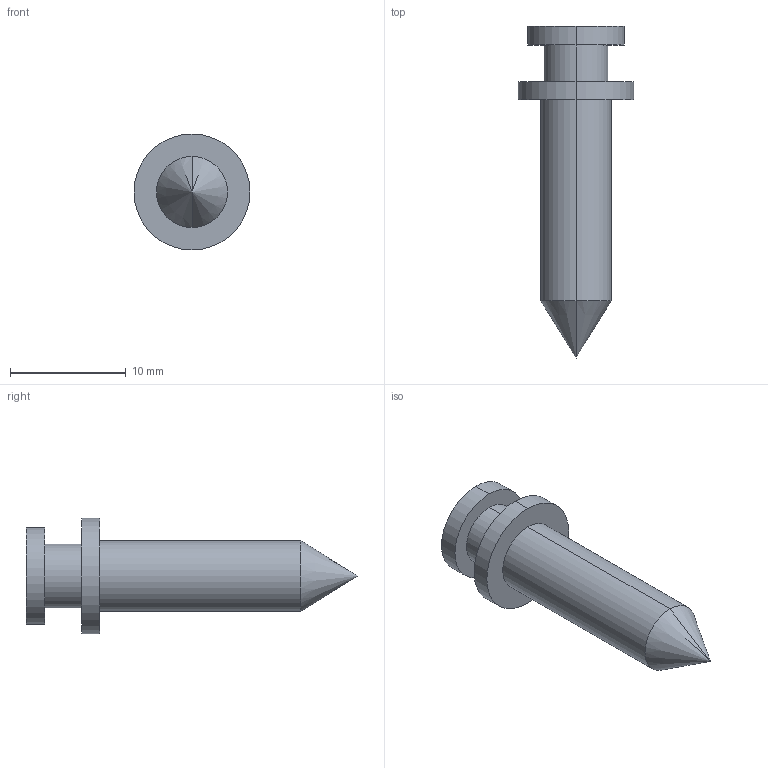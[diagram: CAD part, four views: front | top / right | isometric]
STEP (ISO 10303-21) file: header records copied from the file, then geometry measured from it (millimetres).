
FILE_DESCRIPTION (( 'STEP AP214' ), '1' );
FILE_NAME ('6069_V01_REF_PRT_SH_SCR.STEP', '2026-01-20T15:32:13', ( '' ), ( '' ), 'SwSTEP 2.0', 'SolidWorks 2025', '' );
FILE_SCHEMA (( 'AUTOMOTIVE_DESIGN' ));
Length unit declared in the file: inch
Products named in the file (1): 6069_V01_REF_PRT_SH_SCR
Bounding box: 10.03 x 28.72 x 10.03 mm (x, y, z)
Volume: 855.9 mm3; surface area: 730.6 mm2
Topology: 1 solids, 1 shells, 14 faces, 28 edges, 17 vertices
Faces by surface type: cylinder 8, plane 4, cone 2
Entity records: 385 total; most frequent: DIRECTION 72, CARTESIAN_POINT 58, ORIENTED_EDGE 52, AXIS2_PLACEMENT_3D 31, EDGE_CURVE 26, EDGE_LOOP 17, VERTEX_POINT 17, CIRCLE 16
